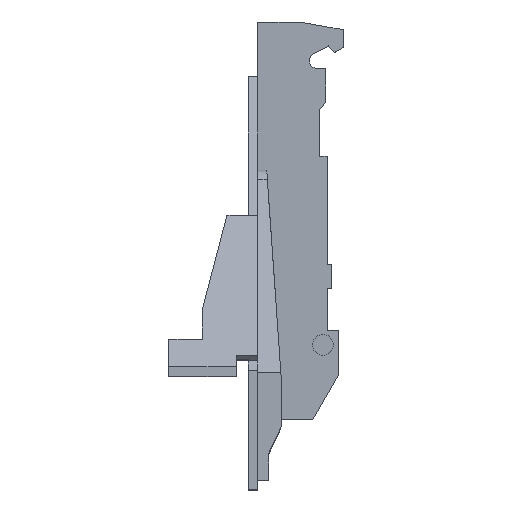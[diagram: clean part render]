
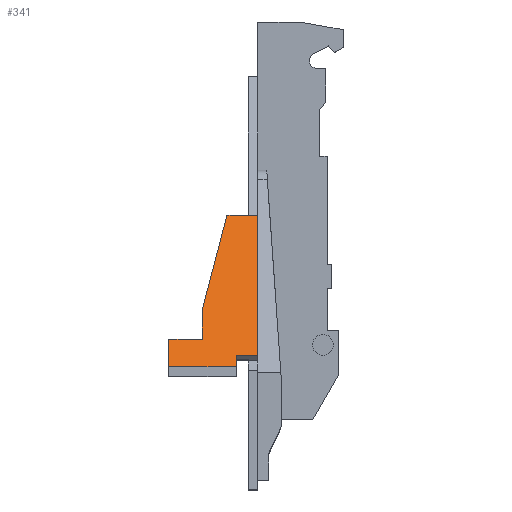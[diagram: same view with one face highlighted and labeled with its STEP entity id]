
A CAD part, top view. The second image highlights one B-rep face of the part: STEP entity #341.
In plain terms, the highlighted planar face has unit normal (0, 0.432, 0.902).
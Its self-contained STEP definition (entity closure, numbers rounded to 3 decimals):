
#341 = ADVANCED_FACE ( 'NONE', ( #4195 ), #3374, .F. ) ;
#433 = CARTESIAN_POINT ( 'NONE',  ( -2., 11., 31.976 ) ) ;
#436 = DIRECTION ( 'NONE',  ( 0., -0.902, 0.432 ) ) ;
#469 = CARTESIAN_POINT ( 'NONE',  ( 1.5, 35.853, 20.068 ) ) ;
#470 = DIRECTION ( 'NONE',  ( 1., 0., 0. ) ) ;
#654 = CARTESIAN_POINT ( 'NONE',  ( -13., 35.853, 20.068 ) ) ;
#655 = DIRECTION ( 'NONE',  ( 0., -0.902, 0.432 ) ) ;
#792 = CARTESIAN_POINT ( 'NONE',  ( 1.5, 35.853, 20.068 ) ) ;
#793 = DIRECTION ( 'NONE',  ( 0., -0.902, 0.432 ) ) ;
#815 = CARTESIAN_POINT ( 'NONE',  ( 1.5, 12.857, 31.086 ) ) ;
#816 = DIRECTION ( 'NONE',  ( 1., 0., 0. ) ) ;
#830 = CARTESIAN_POINT ( 'NONE',  ( -2., 11., 31.976 ) ) ;
#831 = DIRECTION ( 'NONE',  ( -1., 0., 0. ) ) ;
#1419 = CARTESIAN_POINT ( 'NONE',  ( 1.5, 35.853, 20.068 ) ) ;
#1426 = CARTESIAN_POINT ( 'NONE',  ( 1.5, 12.857, 31.086 ) ) ;
#1478 = CARTESIAN_POINT ( 'NONE',  ( -2., 11., 31.976 ) ) ;
#1481 = CARTESIAN_POINT ( 'NONE',  ( -13., 11., 31.976 ) ) ;
#1509 = CARTESIAN_POINT ( 'NONE',  ( -2., 12.857, 31.086 ) ) ;
#1510 = CARTESIAN_POINT ( 'NONE',  ( -7.5, 20.522, 27.414 ) ) ;
#1511 = CARTESIAN_POINT ( 'NONE',  ( -7.5, 15.562, 29.79 ) ) ;
#1512 = CARTESIAN_POINT ( 'NONE',  ( -3.5, 35.853, 20.068 ) ) ;
#1513 = CARTESIAN_POINT ( 'NONE',  ( -13., 15.562, 29.79 ) ) ;
#1575 = EDGE_CURVE ( 'NONE', #3204, #3202, #4303, .T. ) ;
#1591 = EDGE_CURVE ( 'NONE', #3202, #3203, #2561, .T. ) ;
#1634 = EDGE_CURVE ( 'NONE', #3203, #3205, #2619, .T. ) ;
#1693 = AXIS2_PLACEMENT_3D ( 'NONE', #3373, #3376, #3377 ) ;
#1718 = EDGE_CURVE ( 'NONE', #3201, #3170, #2727, .T. ) ;
#1738 = EDGE_CURVE ( 'NONE', #3204, #3107, #2758, .T. ) ;
#1851 = EDGE_CURVE ( 'NONE', #3205, #3173, #4545, .T. ) ;
#1941 = EDGE_CURVE ( 'NONE', #3107, #3118, #4658, .T. ) ;
#1952 = EDGE_CURVE ( 'NONE', #3201, #3118, #4666, .T. ) ;
#1962 = EDGE_CURVE ( 'NONE', #3170, #3173, #4700, .T. ) ;
#2228 = ORIENTED_EDGE ( 'NONE', *, *, #1738, .F. ) ;
#2229 = ORIENTED_EDGE ( 'NONE', *, *, #1941, .F. ) ;
#2230 = ORIENTED_EDGE ( 'NONE', *, *, #1952, .T. ) ;
#2231 = ORIENTED_EDGE ( 'NONE', *, *, #1718, .F. ) ;
#2235 = ORIENTED_EDGE ( 'NONE', *, *, #1962, .F. ) ;
#2237 = ORIENTED_EDGE ( 'NONE', *, *, #1851, .T. ) ;
#2239 = ORIENTED_EDGE ( 'NONE', *, *, #1634, .T. ) ;
#2241 = ORIENTED_EDGE ( 'NONE', *, *, #1591, .T. ) ;
#2243 = ORIENTED_EDGE ( 'NONE', *, *, #1575, .T. ) ;
#2561 = LINE ( 'NONE', #3671, #2562 ) ;
#2562 = VECTOR ( 'NONE', #3672, 1000. ) ;
#2619 = LINE ( 'NONE', #3741, #2625 ) ;
#2625 = VECTOR ( 'NONE', #3744, 1000. ) ;
#2727 = LINE ( 'NONE', #433, #2731 ) ;
#2731 = VECTOR ( 'NONE', #436, 1000. ) ;
#2758 = LINE ( 'NONE', #469, #2759 ) ;
#2759 = VECTOR ( 'NONE', #470, 1000. ) ;
#3107 = VERTEX_POINT ( 'NONE', #1419 ) ;
#3118 = VERTEX_POINT ( 'NONE', #1426 ) ;
#3170 = VERTEX_POINT ( 'NONE', #1478 ) ;
#3173 = VERTEX_POINT ( 'NONE', #1481 ) ;
#3201 = VERTEX_POINT ( 'NONE', #1509 ) ;
#3202 = VERTEX_POINT ( 'NONE', #1510 ) ;
#3203 = VERTEX_POINT ( 'NONE', #1511 ) ;
#3204 = VERTEX_POINT ( 'NONE', #1512 ) ;
#3205 = VERTEX_POINT ( 'NONE', #1513 ) ;
#3373 = CARTESIAN_POINT ( 'NONE',  ( 1.5, 35.853, 20.068 ) ) ;
#3374 = PLANE ( 'NONE',  #1693 ) ;
#3376 = DIRECTION ( 'NONE',  ( 0., -0.432, -0.902 ) ) ;
#3377 = DIRECTION ( 'NONE',  ( 0., 0.902, -0.432 ) ) ;
#3636 = CARTESIAN_POINT ( 'NONE',  ( -7.5, 20.522, 27.414 ) ) ;
#3639 = DIRECTION ( 'NONE',  ( -0.229, -0.878, 0.421 ) ) ;
#3671 = CARTESIAN_POINT ( 'NONE',  ( -7.5, 15.562, 29.79 ) ) ;
#3672 = DIRECTION ( 'NONE',  ( 0., -0.902, 0.432 ) ) ;
#3741 = CARTESIAN_POINT ( 'NONE',  ( -13., 15.562, 29.79 ) ) ;
#3744 = DIRECTION ( 'NONE',  ( -1., 0., 0. ) ) ;
#4031 = EDGE_LOOP ( 'NONE', ( #2243, #2241, #2239, #2237, #2235, #2231, #2230, #2229, #2228 ) ) ;
#4195 = FACE_OUTER_BOUND ( 'NONE', #4031, .T. ) ;
#4303 = LINE ( 'NONE', #3636, #4308 ) ;
#4308 = VECTOR ( 'NONE', #3639, 1000. ) ;
#4545 = LINE ( 'NONE', #654, #4546 ) ;
#4546 = VECTOR ( 'NONE', #655, 1000. ) ;
#4658 = LINE ( 'NONE', #792, #4664 ) ;
#4663 = VECTOR ( 'NONE', #816, 1000. ) ;
#4664 = VECTOR ( 'NONE', #793, 1000. ) ;
#4666 = LINE ( 'NONE', #815, #4663 ) ;
#4700 = LINE ( 'NONE', #830, #4701 ) ;
#4701 = VECTOR ( 'NONE', #831, 1000. ) ;
